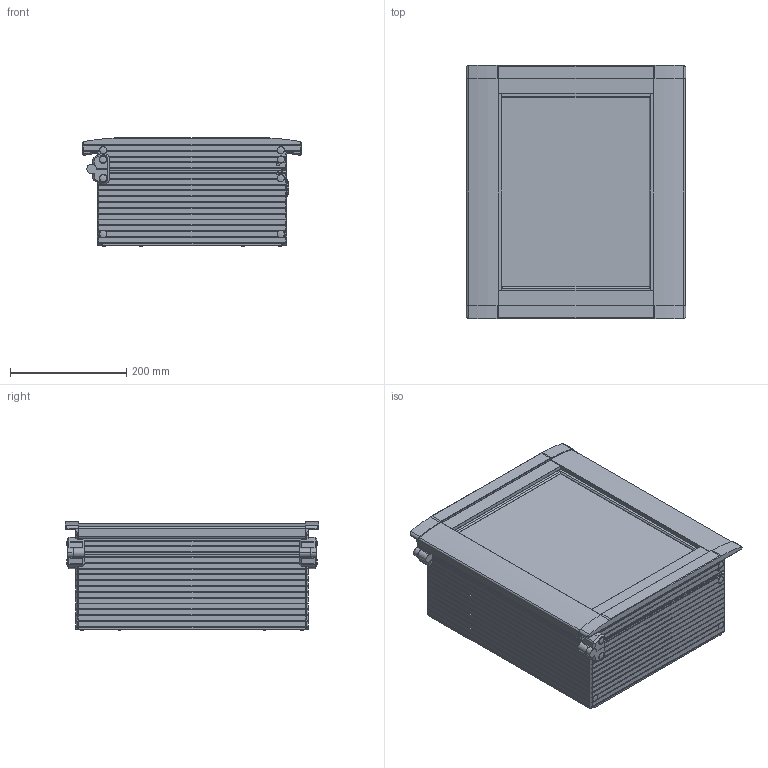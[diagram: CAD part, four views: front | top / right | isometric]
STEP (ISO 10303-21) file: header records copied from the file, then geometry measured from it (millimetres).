
FILE_DESCRIPTION (( 'STEP AP203' ), '1' );
FILE_NAME ('sy322516a.STEP', '2018-03-05T17:20:51', ( '' ), ( '' ), 'SwSTEP 2.0', 'SolidWorks 2014', '' );
FILE_SCHEMA (( 'CONFIG_CONTROL_DESIGN' ));
Length unit declared in the file: millimetre
Products named in the file (2): sy322516a; 89139432
Assembly tree (1 placements, depth 2):
  sy322516a
    89139432
Bounding box: 377 x 435 x 186.36 mm (x, y, z)
Surface area: 901720.4 mm2 (no closed solid volume)
Topology: 0 solids, 128 shells, 1047 faces, 3963 edges, 2965 vertices
Faces by surface type: cylinder 489, plane 445, cone 61, bspline 52
Entity records: 49171 total; most frequent: CARTESIAN_POINT 19046, ORIENTED_EDGE 6082, DIRECTION 5149, EDGE_CURVE 3954, VERTEX_POINT 2965, VECTOR 1801, LINE 1801, AXIS2_PLACEMENT_3D 1674
